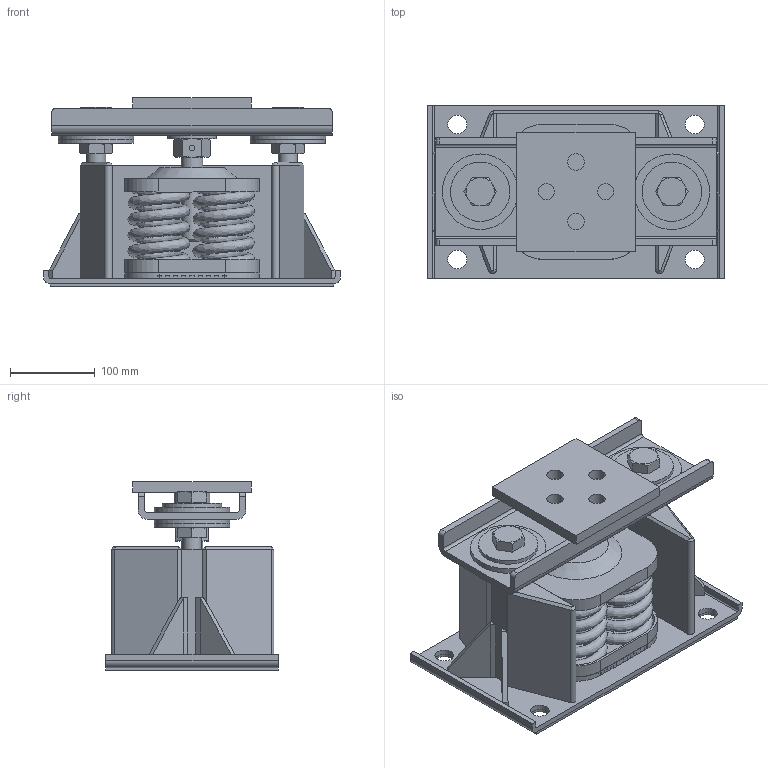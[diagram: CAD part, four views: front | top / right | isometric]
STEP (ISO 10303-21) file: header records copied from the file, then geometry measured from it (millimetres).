
FILE_DESCRIPTION(/* description */ (''),/* implementation_level */ '2;1');
FILE_NAME(/* name */ '\\Mleuckthor2\cad-proe_solids\WEBSITE FILES 05.22.13\STEP\SLRSO\SLRSO-4-C2.stp',/* time_stamp */ '2016-04-28T15:44:25-04:00',/* author */ ('rramoutar'),/* organization */ ('Mason Industries Inc.'),/* preprocessor_version */ 'ST-DEVELOPER v15.6',/* originating_system */ 'Autodesk Inventor 2015',/* authorisation */ '');
FILE_SCHEMA (('CONFIG_CONTROL_DESIGN'));
Products named in the file (1): SLRSO-4 FULL ASSEMBLY (D-5248-3)
Bounding box: 349.25 x 203.2 x 222.25 mm (x, y, z)
Volume: 3353790.6 mm3; surface area: 1332947.6 mm2
Topology: 55 solids, 55 shells, 1602 faces, 3789 edges, 2496 vertices
Faces by surface type: plane 1393, cylinder 138, cone 61, bspline 8, torus 2
Full cylindrical faces by diameter (mm): 6.35 x3, 14.287 x2, 15.875 x2, 19.05 x12, 19.177 x6, 21.971 x2, 22.225 x12, 23.812 x4, 25.4 x1, 26.987 x2, 28.575 x8, 30.004 x2, 31.75 x1, 35.052 x1, 42.164 x1, 44.45 x2, 50.8 x4, 57.15 x1, 69.85 x2, 88.9 x6
Entity records: 55287 total; most frequent: CARTESIAN_POINT 16913, ORIENTED_EDGE 7360, DIRECTION 7141, EDGE_CURVE 3669, LINE 3147, VECTOR 3147, VERTEX_POINT 2465, AXIS2_PLACEMENT_3D 1997
